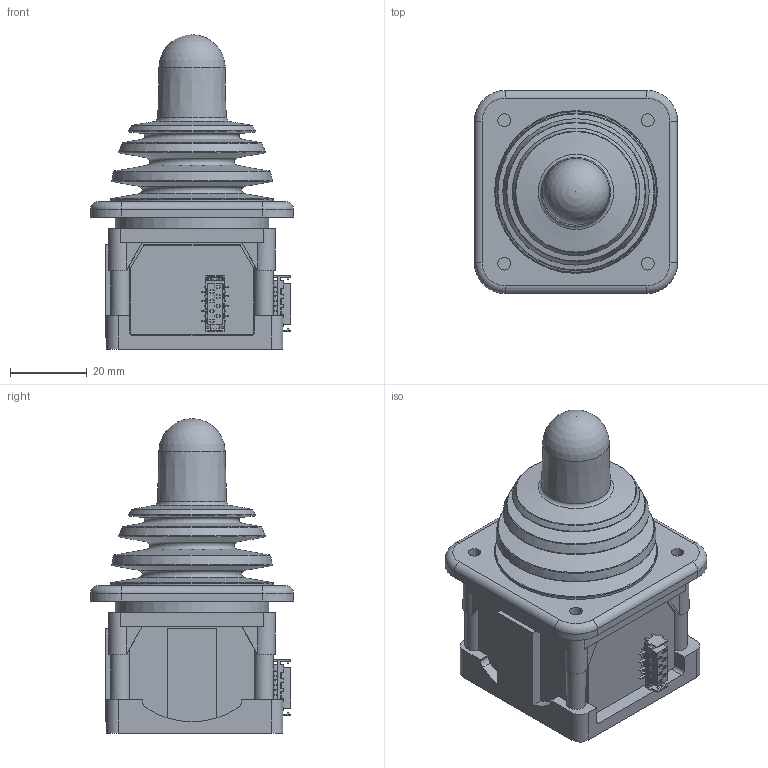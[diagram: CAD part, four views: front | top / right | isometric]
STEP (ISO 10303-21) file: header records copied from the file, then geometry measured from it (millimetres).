
FILE_DESCRIPTION(/* description */ (''),/* implementation_level */ '2;1');
FILE_NAME(/* name */ 'S:\Entwicklung\01_CAD-Daten\01_AIDATA-GT\1_1_Joysticks\SK197\Zusammenstellungen\197-0123_vereinfacht.stp',/* time_stamp */ '2024-12-13T11:07:53+01:00',/* author */ ('fdm'),/* organization */ (''),/* preprocessor_version */ 'ST-DEVELOPER v18.1',/* originating_system */ 'Autodesk Inventor 2021',/* authorisation */ '');
FILE_SCHEMA (('AUTOMOTIVE_DESIGN { 1 0 10303 214 3 1 1 }'));
Length unit declared in the file: millimetre
Products named in the file (1): 197-0128_vereinfacht
Bounding box: 53 x 53 x 82.1 mm (x, y, z)
Volume: 94387.1 mm3; surface area: 24882.7 mm2
Topology: 5 solids, 5 shells, 1169 faces, 3453 edges, 2296 vertices
Faces by surface type: plane 902, cylinder 240, torus 15, cone 8, bspline 3, sphere 1
Full cylindrical faces by diameter (mm): 3.3 x4, 40 x1, 42.5 x1
Entity records: 38906 total; most frequent: CARTESIAN_POINT 6996, ORIENTED_EDGE 6904, DIRECTION 6348, EDGE_CURVE 3452, LINE 2890, VECTOR 2890, VERTEX_POINT 2296, AXIS2_PLACEMENT_3D 1729
